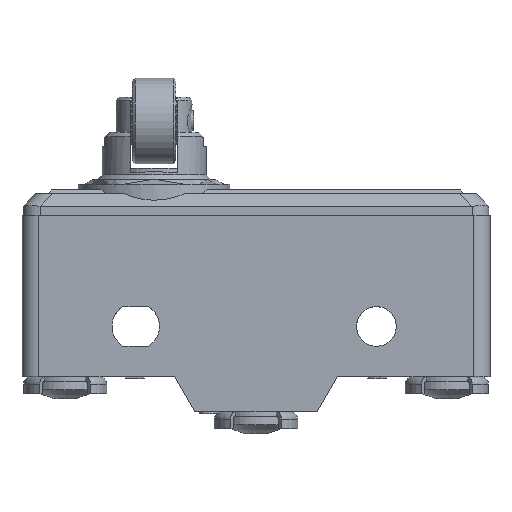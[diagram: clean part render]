
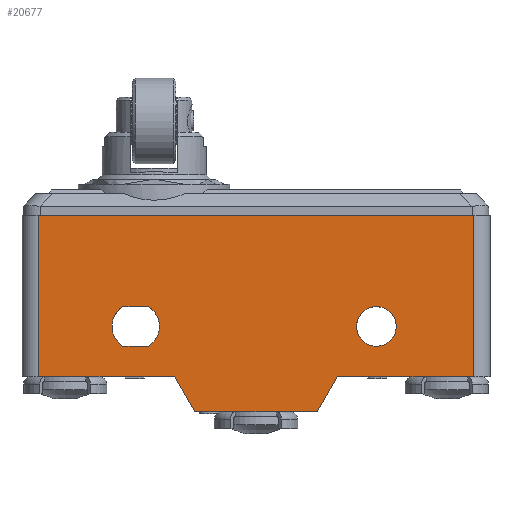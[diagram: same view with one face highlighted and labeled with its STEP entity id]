
A CAD part, top view. The second image highlights one B-rep face of the part: STEP entity #20677.
In plain terms, the highlighted planar face has unit normal (0, 0, 1).
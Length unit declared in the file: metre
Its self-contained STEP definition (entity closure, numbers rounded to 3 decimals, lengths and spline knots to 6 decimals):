
#14906=CARTESIAN_POINT('',(0.000863,-0.011297,0.0582));
#14907=VERTEX_POINT('',#14906);
#14910=CARTESIAN_POINT('',(-0.001273,-0.014997,0.0582));
#14911=DIRECTION('',(0.5,0.866,0.));
#14912=VECTOR('',#14911,1.);
#14913=LINE('',#14910,#14912);
#14914=CARTESIAN_POINT('',(-0.001273,-0.014997,0.0582));
#14915=VERTEX_POINT('',#14914);
#14916=EDGE_CURVE('',#14915,#14907,#14913,.T.);
#15974=CARTESIAN_POINT('',(-0.014201,-0.014997,0.0582));
#15975=VERTEX_POINT('',#15974);
#15978=CARTESIAN_POINT('',(-0.016337,-0.011297,0.0582));
#15979=DIRECTION('',(0.5,-0.866,0.));
#15980=VECTOR('',#15979,1.);
#15981=LINE('',#15978,#15980);
#15982=CARTESIAN_POINT('',(-0.016337,-0.011297,0.0582));
#15983=VERTEX_POINT('',#15982);
#15984=EDGE_CURVE('',#15983,#15975,#15981,.T.);
#16061=CARTESIAN_POINT('',(-0.030687,0.005703,0.0582));
#16062=VERTEX_POINT('',#16061);
#16071=CARTESIAN_POINT('',(-0.030687,-0.011297,0.0582));
#16072=VERTEX_POINT('',#16071);
#16075=CARTESIAN_POINT('',(-0.030687,-0.006697,0.0582));
#16076=DIRECTION('',(0.,-1.,0.));
#16077=VECTOR('',#16076,1.);
#16078=LINE('',#16075,#16077);
#16079=EDGE_CURVE('',#16062,#16072,#16078,.T.);
#17476=CARTESIAN_POINT('',(-0.032437,-0.011297,0.0582));
#17477=DIRECTION('',(1.,0.,0.));
#17478=VECTOR('',#17477,1.);
#17479=LINE('',#17476,#17478);
#17480=EDGE_CURVE('',#16072,#15983,#17479,.T.);
#17586=CARTESIAN_POINT('',(0.015213,-0.011297,0.0582));
#17587=VERTEX_POINT('',#17586);
#17605=CARTESIAN_POINT('',(0.015213,0.005703,0.0582));
#17606=VERTEX_POINT('',#17605);
#17609=CARTESIAN_POINT('',(0.015213,-0.006697,0.0582));
#17610=DIRECTION('',(0.,1.,0.));
#17611=VECTOR('',#17610,1.);
#17612=LINE('',#17609,#17611);
#17613=EDGE_CURVE('',#17587,#17606,#17612,.T.);
#17723=CARTESIAN_POINT('',(0.016963,0.005703,0.0582));
#17724=DIRECTION('',(-1.,0.,0.));
#17725=VECTOR('',#17724,1.);
#17726=LINE('',#17723,#17725);
#17727=EDGE_CURVE('',#17606,#16062,#17726,.T.);
#19665=CARTESIAN_POINT('',(0.000863,-0.011297,0.0582));
#19666=DIRECTION('',(1.,0.,0.));
#19667=VECTOR('',#19666,1.);
#19668=LINE('',#19665,#19667);
#19669=EDGE_CURVE('',#14907,#17587,#19668,.T.);
#20595=CARTESIAN_POINT('',(0.004963,-0.005997,0.0582));
#20596=DIRECTION('',(0.,0.,1.));
#20597=DIRECTION('',(1.,0.,0.));
#20598=AXIS2_PLACEMENT_3D('',#20595,#20596,#20597);
#20599=CIRCLE('',#20598,0.0021);
#20600=CARTESIAN_POINT('',(0.002863,-0.005997,0.0582));
#20601=VERTEX_POINT('',#20600);
#20602=EDGE_CURVE('',#20601,#20601,#20599,.T.);
#20618=CARTESIAN_POINT('',(0.005603,-0.006697,0.0582));
#20619=DIRECTION('',(0.,0.,-1.));
#20620=DIRECTION('',(-1.,0.,0.));
#20621=AXIS2_PLACEMENT_3D('',#20618,#20619,#20620);
#20622=PLANE('',#20621);
#20623=CARTESIAN_POINT('',(-0.019081,-0.003897,0.0582));
#20624=DIRECTION('',(-1.,0.,0.));
#20625=VECTOR('',#20624,1.);
#20626=LINE('',#20623,#20625);
#20627=CARTESIAN_POINT('',(-0.019081,-0.003897,0.0582));
#20628=VERTEX_POINT('',#20627);
#20629=CARTESIAN_POINT('',(-0.021794,-0.003897,0.0582));
#20630=VERTEX_POINT('',#20629);
#20631=EDGE_CURVE('',#20628,#20630,#20626,.T.);
#20632=ORIENTED_EDGE('',*,*,#20631,.F.);
#20633=CARTESIAN_POINT('',(-0.020437,-0.005997,0.0582));
#20634=DIRECTION('',(0.,0.,1.));
#20635=DIRECTION('',(1.,0.,0.));
#20636=AXIS2_PLACEMENT_3D('',#20633,#20634,#20635);
#20637=CIRCLE('',#20636,0.0025);
#20638=CARTESIAN_POINT('',(-0.019081,-0.008097,0.0582));
#20639=VERTEX_POINT('',#20638);
#20640=EDGE_CURVE('',#20639,#20628,#20637,.T.);
#20641=ORIENTED_EDGE('',*,*,#20640,.F.);
#20642=CARTESIAN_POINT('',(-0.019081,-0.008097,0.0582));
#20643=DIRECTION('',(1.,0.,0.));
#20644=VECTOR('',#20643,1.);
#20645=LINE('',#20642,#20644);
#20646=CARTESIAN_POINT('',(-0.021794,-0.008097,0.0582));
#20647=VERTEX_POINT('',#20646);
#20648=EDGE_CURVE('',#20647,#20639,#20645,.T.);
#20649=ORIENTED_EDGE('',*,*,#20648,.F.);
#20650=CARTESIAN_POINT('',(-0.020437,-0.005997,0.0582));
#20651=DIRECTION('',(0.,0.,1.));
#20652=DIRECTION('',(1.,0.,0.));
#20653=AXIS2_PLACEMENT_3D('',#20650,#20651,#20652);
#20654=CIRCLE('',#20653,0.0025);
#20655=EDGE_CURVE('',#20630,#20647,#20654,.T.);
#20656=ORIENTED_EDGE('',*,*,#20655,.F.);
#20657=EDGE_LOOP('',(#20632,#20641,#20649,#20656));
#20658=FACE_BOUND('',#20657,.T.);
#20659=ORIENTED_EDGE('',*,*,#20602,.F.);
#20660=EDGE_LOOP('',(#20659));
#20661=FACE_BOUND('',#20660,.T.);
#20662=ORIENTED_EDGE('',*,*,#19669,.T.);
#20663=ORIENTED_EDGE('',*,*,#17613,.T.);
#20664=ORIENTED_EDGE('',*,*,#17727,.T.);
#20665=ORIENTED_EDGE('',*,*,#16079,.T.);
#20666=ORIENTED_EDGE('',*,*,#17480,.T.);
#20667=ORIENTED_EDGE('',*,*,#15984,.T.);
#20668=CARTESIAN_POINT('',(-0.014201,-0.014997,0.0582));
#20669=DIRECTION('',(1.,0.,0.));
#20670=VECTOR('',#20669,1.);
#20671=LINE('',#20668,#20670);
#20672=EDGE_CURVE('',#15975,#14915,#20671,.T.);
#20673=ORIENTED_EDGE('',*,*,#20672,.T.);
#20674=ORIENTED_EDGE('',*,*,#14916,.T.);
#20675=EDGE_LOOP('',(#20662,#20663,#20664,#20665,#20666,#20667,#20673,#20674));
#20676=FACE_BOUND('',#20675,.T.);
#20677=ADVANCED_FACE('',(#20658,#20661,#20676),#20622,.F.);
